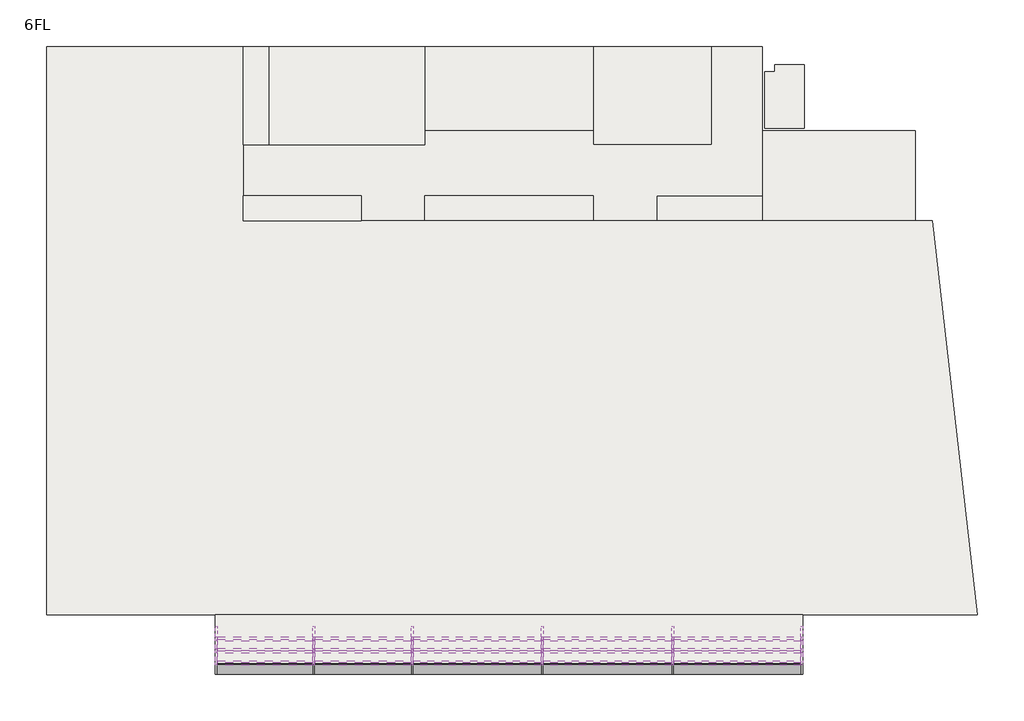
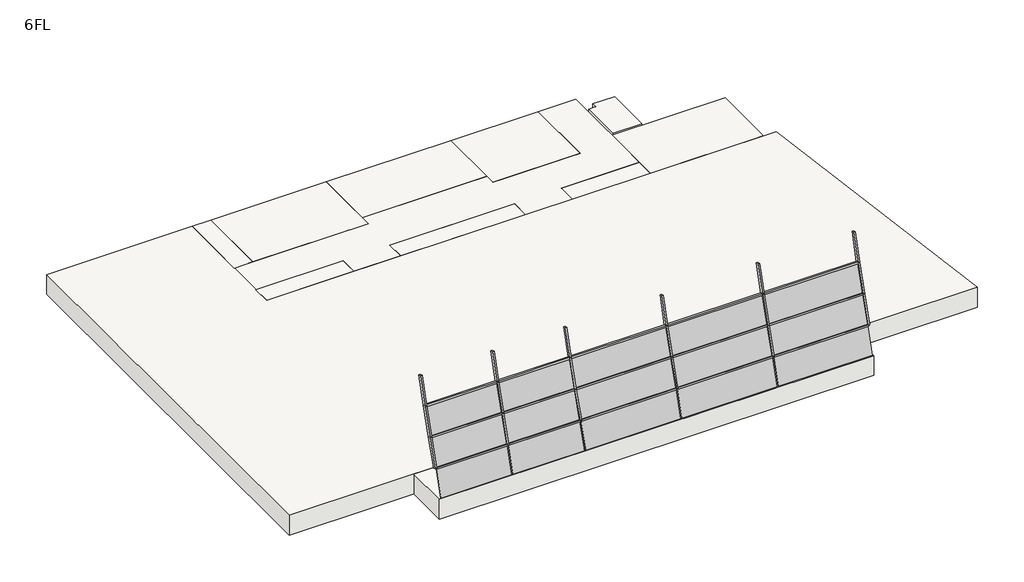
# One storey: 33 members, 15 plates, 12 slabs.
"""IFC4 building model written with IfcOpenShell, lengths in millimetres."""

from ifc_helpers import new_model, si_unit, frame, origin, place, context, project, spatial, polyline, outline, extrude, transform, mapped, element, save
from components import member_70x150_4d24a05e, member_70x150_d36ba8ce, member_70x150_5c89d520, member_70x150_7418113c, member_70x150_315d404a, member_70x150_3cf8c52d, member_70x150_7b6bfe59, member_70x150_6df770a6, member_70x150_4fc0aec4, member_70x150_978bb48a, member_70x150_3538702d, member_70x150_0db77144, member_70x150_8d1aeb24, plate_5c5a61a4, plate_8eeb7153, plate_ab7e929b, plate_5fce4ca5, plate_af152b64, plate_ac0f2cd7, plate_95306383, plate_b8464858, plate_ff207d9e, plate_d95853d9, plate_ad73517c, plate_ecb06764

model = new_model("IFC4")

# Units and contexts
model_context = context("Model", 3, world=origin())
ifc_project = project(units=[si_unit("LENGTHUNIT", "METRE", prefix="MILLI")], contexts=[model_context])

# Site, building, storey
site = spatial("IfcSite", under=ifc_project)
building = spatial("IfcBuilding", under=site)
storey = spatial("IfcBuildingStorey", under=building, Name="6FL", Elevation=20600.0)

# Members
placement = place(None, origin())
member_70x150_shape = member_70x150_4d24a05e(model_context)
element("IfcMember", 1, ObjectType="長方形のマリオン : 70x150", at=placement, inside=storey, context=model_context, shape_type="MappedRepresentation", body=[
    mapped(member_70x150_shape, transform((-2015.9784025, -4839.1729221, 23265.1969185), x_axis=(0.0, 0.3103836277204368, 0.9506113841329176), y_axis=(0.0, -0.9506113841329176, 0.3103836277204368), z_axis=(1.0, 0.0, 0.0))),
])
element("IfcMember", 2, ObjectType="長方形のマリオン : 70x150", at=placement, inside=storey, context=model_context, shape_type="MappedRepresentation", body=[
    mapped(member_70x150_shape, transform((-2015.9784025, -5273.5231859, 21932.2020574), x_axis=(0.0, 0.30475282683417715, 0.9524314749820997), y_axis=(0.0, -0.9524314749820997, 0.30475282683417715), z_axis=(1.0, 0.0, 0.0))),
])
element("IfcMember", 3, ObjectType="長方形のマリオン : 70x150", at=placement, inside=storey, context=model_context, shape_type="MappedRepresentation", body=[
    mapped(member_70x150_shape, transform((-2015.9784025, -4416.3385695, 24600.0), x_axis=(0.0, 0.2889886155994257, 0.9573325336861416), y_axis=(0.0, -0.9573325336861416, 0.2889886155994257), z_axis=(1.0, 0.0, 0.0))),
])
member_70x150_2_shape = member_70x150_d36ba8ce(model_context)
element("IfcMember", 4, ObjectType="長方形のマリオン : 70x150", at=placement, inside=storey, context=model_context, shape_type="MappedRepresentation", body=[
    mapped(member_70x150_2_shape, transform((-19380.9784025, -4839.1729221, 23265.1969185), x_axis=(0.0, 0.31038362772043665, 0.9506113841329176), y_axis=(0.0, -0.9506113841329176, 0.31038362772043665), z_axis=(1.0, 0.0, 0.0))),
])
element("IfcMember", 5, ObjectType="長方形のマリオン : 70x150", at=placement, inside=storey, context=model_context, shape_type="MappedRepresentation", body=[
    mapped(member_70x150_2_shape, transform((-19380.9784025, -5273.5231859, 21932.2020574), x_axis=(0.0, 0.30475282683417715, 0.9524314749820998), y_axis=(0.0, -0.9524314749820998, 0.30475282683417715), z_axis=(1.0, 0.0, 0.0))),
])
element("IfcMember", 6, ObjectType="長方形のマリオン : 70x150", at=placement, inside=storey, context=model_context, shape_type="MappedRepresentation", body=[
    mapped(member_70x150_2_shape, transform((-19380.9784025, -4416.3385695, 24600.0), x_axis=(0.0, 0.28898861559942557, 0.9573325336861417), y_axis=(0.0, -0.9573325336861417, 0.28898861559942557), z_axis=(1.0, 0.0, 0.0))),
])
member_70x150_3_shape = member_70x150_5c89d520(model_context)
element("IfcMember", 7, ObjectType="長方形のマリオン : 70x150", at=placement, inside=storey, context=model_context, shape_type="MappedRepresentation", body=[
    mapped(member_70x150_3_shape, transform((-11247.6450692, -4839.1729221, 23265.1969185), x_axis=(0.0, 0.31038362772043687, 0.9506113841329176), y_axis=(0.0, -0.9506113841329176, 0.31038362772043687), z_axis=(1.0, 0.0, 0.0))),
])
element("IfcMember", 8, ObjectType="長方形のマリオン : 70x150", at=placement, inside=storey, context=model_context, shape_type="MappedRepresentation", body=[
    mapped(member_70x150_3_shape, transform((-6614.3117358, -4839.1729221, 23265.1969185), x_axis=(0.0, 0.3103836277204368, 0.9506113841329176), y_axis=(0.0, -0.9506113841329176, 0.3103836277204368), z_axis=(1.0, 0.0, 0.0))),
])
element("IfcMember", 9, ObjectType="長方形のマリオン : 70x150", at=placement, inside=storey, context=model_context, shape_type="MappedRepresentation", body=[
    mapped(member_70x150_3_shape, transform((-6614.3117358, -5273.5231859, 21932.2020574), x_axis=(0.0, 0.30475282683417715, 0.9524314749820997), y_axis=(0.0, -0.9524314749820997, 0.30475282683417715), z_axis=(1.0, 0.0, 0.0))),
])
element("IfcMember", 10, ObjectType="長方形のマリオン : 70x150", at=placement, inside=storey, context=model_context, shape_type="MappedRepresentation", body=[
    mapped(member_70x150_3_shape, transform((-11247.6450692, -5273.5231859, 21932.2020574), x_axis=(0.0, 0.30475282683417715, 0.9524314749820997), y_axis=(0.0, -0.9524314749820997, 0.30475282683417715), z_axis=(1.0, 0.0, 0.0))),
])
element("IfcMember", 11, ObjectType="長方形のマリオン : 70x150", at=placement, inside=storey, context=model_context, shape_type="MappedRepresentation", body=[
    mapped(member_70x150_3_shape, transform((-11247.6450692, -4416.3385695, 24600.0), x_axis=(0.0, 0.2889886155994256, 0.9573325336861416), y_axis=(0.0, -0.9573325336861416, 0.2889886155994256), z_axis=(1.0, 0.0, 0.0))),
])
element("IfcMember", 12, ObjectType="長方形のマリオン : 70x150", at=placement, inside=storey, context=model_context, shape_type="MappedRepresentation", body=[
    mapped(member_70x150_3_shape, transform((-6614.3117358, -4416.3385695, 24600.0), x_axis=(0.0, 0.28898861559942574, 0.9573325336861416), y_axis=(0.0, -0.9573325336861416, 0.28898861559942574), z_axis=(1.0, 0.0, 0.0))),
])
member_70x150_4_shape = member_70x150_7418113c(model_context)
element("IfcMember", 13, ObjectType="長方形のマリオン : 70x150", at=placement, inside=storey, context=model_context, shape_type="MappedRepresentation", body=[
    mapped(member_70x150_4_shape, transform((-15880.9784025, -4839.1729221, 23265.1969185), x_axis=(0.0, 0.31038362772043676, 0.9506113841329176), y_axis=(0.0, -0.9506113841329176, 0.31038362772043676), z_axis=(1.0, 0.0, 0.0))),
])
element("IfcMember", 14, ObjectType="長方形のマリオン : 70x150", at=placement, inside=storey, context=model_context, shape_type="MappedRepresentation", body=[
    mapped(member_70x150_4_shape, transform((-15880.9784025, -5273.5231859, 21932.2020574), x_axis=(0.0, 0.30475282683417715, 0.9524314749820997), y_axis=(0.0, -0.9524314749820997, 0.30475282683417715), z_axis=(1.0, 0.0, 0.0))),
])
element("IfcMember", 15, ObjectType="長方形のマリオン : 70x150", at=placement, inside=storey, context=model_context, shape_type="MappedRepresentation", body=[
    mapped(member_70x150_4_shape, transform((-15880.9784025, -4416.3385695, 24600.0), x_axis=(0.0, 0.28898861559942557, 0.9573325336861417), y_axis=(0.0, -0.9573325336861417, 0.28898861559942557), z_axis=(1.0, 0.0, 0.0))),
])
member_70x150_5_shape = member_70x150_315d404a(model_context)
element("IfcMember", 16, ObjectType="長方形のマリオン : 70x150", at=placement, inside=storey, context=model_context, shape_type="MappedRepresentation", body=[
    mapped(member_70x150_5_shape, transform((-15845.9784025, -5273.5231859, 21932.2020574), x_axis=(1.0, 0.0, 0.0), y_axis=(0.0, -0.9507975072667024, 0.30981300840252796), z_axis=(0.0, -0.30981300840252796, -0.9507975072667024))),
])
element("IfcMember", 17, ObjectType="長方形のマリオン : 70x150", at=placement, inside=storey, context=model_context, shape_type="MappedRepresentation", body=[
    mapped(member_70x150_5_shape, transform((-6579.3117358, -5273.5231859, 21932.2020574), x_axis=(1.0, 0.0, 0.0), y_axis=(0.0, -0.9507975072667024, 0.30981300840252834), z_axis=(0.0, -0.30981300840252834, -0.9507975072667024))),
])
element("IfcMember", 18, ObjectType="長方形のマリオン : 70x150", at=placement, inside=storey, context=model_context, shape_type="MappedRepresentation", body=[
    mapped(member_70x150_5_shape, transform((-11212.6450692, -5273.5231859, 21932.2020574), x_axis=(1.0, 0.0, 0.0), y_axis=(0.0, -0.9507975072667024, 0.30981300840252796), z_axis=(0.0, -0.30981300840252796, -0.9507975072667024))),
])
element("IfcMember", 19, ObjectType="長方形のマリオン : 70x150", at=placement, inside=storey, context=model_context, shape_type="MappedRepresentation", body=[
    mapped(member_70x150_5_shape, transform((-19345.9784025, -5273.5231859, 21932.2020574), x_axis=(1.0, 0.0, 0.0), y_axis=(0.0, -0.9507975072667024, 0.30981300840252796), z_axis=(0.0, -0.30981300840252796, -0.9507975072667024))),
])
member_70x150_6_shape = member_70x150_3cf8c52d(model_context)
element("IfcMember", 20, ObjectType="長方形のマリオン : 70x150", at=placement, inside=storey, context=model_context, shape_type="MappedRepresentation", body=[
    mapped(member_70x150_6_shape, transform((-15845.9784025, -4839.1729221, 23265.1969185), x_axis=(1.0, 0.0, 0.0), y_axis=(0.0, -0.9533120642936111, 0.3019869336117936), z_axis=(0.0, -0.3019869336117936, -0.9533120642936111))),
])
element("IfcMember", 21, ObjectType="長方形のマリオン : 70x150", at=placement, inside=storey, context=model_context, shape_type="MappedRepresentation", body=[
    mapped(member_70x150_6_shape, transform((-6579.3117358, -4839.1729221, 23265.1969185), x_axis=(1.0, 0.0, 0.0), y_axis=(0.0, -0.9533120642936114, 0.3019869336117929), z_axis=(0.0, -0.30198693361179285, -0.9533120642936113))),
])
element("IfcMember", 22, ObjectType="長方形のマリオン : 70x150", at=placement, inside=storey, context=model_context, shape_type="MappedRepresentation", body=[
    mapped(member_70x150_6_shape, transform((-11212.6450692, -4839.1729221, 23265.1969185), x_axis=(1.0, 0.0, 0.0), y_axis=(0.0, -0.9533120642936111, 0.3019869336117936), z_axis=(0.0, -0.3019869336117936, -0.9533120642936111))),
])
element("IfcMember", 23, ObjectType="長方形のマリオン : 70x150", at=placement, inside=storey, context=model_context, shape_type="MappedRepresentation", body=[
    mapped(member_70x150_6_shape, transform((-19345.9784025, -4839.1729221, 23265.1969185), x_axis=(1.0, 0.0, 0.0), y_axis=(0.0, -0.9533120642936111, 0.3019869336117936), z_axis=(0.0, -0.3019869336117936, -0.9533120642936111))),
])
member_70x150_7_shape = member_70x150_7b6bfe59(model_context)
element("IfcMember", 24, ObjectType="長方形のマリオン : 70x150", at=placement, inside=storey, context=model_context, shape_type="MappedRepresentation", body=[
    mapped(member_70x150_7_shape, transform((-15845.9784025, -4416.3385695, 24600.0), x_axis=(1.0, 0.0, 0.0), y_axis=(0.0, -0.9637605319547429, 0.2667688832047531), z_axis=(0.0, -0.2667688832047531, -0.9637605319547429))),
])
element("IfcMember", 25, ObjectType="長方形のマリオン : 70x150", at=placement, inside=storey, context=model_context, shape_type="MappedRepresentation", body=[
    mapped(member_70x150_7_shape, transform((-6579.3117358, -4416.3385695, 24600.0), x_axis=(1.0, 0.0, 0.0), y_axis=(0.0, -0.9637605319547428, 0.26676888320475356), z_axis=(0.0, -0.2667688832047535, -0.9637605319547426))),
])
element("IfcMember", 26, ObjectType="長方形のマリオン : 70x150", at=placement, inside=storey, context=model_context, shape_type="MappedRepresentation", body=[
    mapped(member_70x150_7_shape, transform((-11212.6450692, -4416.3385695, 24600.0), x_axis=(1.0, 0.0, 0.0), y_axis=(0.0, -0.9637605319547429, 0.2667688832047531), z_axis=(0.0, -0.2667688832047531, -0.9637605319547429))),
])
element("IfcMember", 27, ObjectType="長方形のマリオン : 70x150", at=placement, inside=storey, context=model_context, shape_type="MappedRepresentation", body=[
    mapped(member_70x150_7_shape, transform((-19345.9784025, -4416.3385695, 24600.0), x_axis=(1.0, 0.0, 0.0), y_axis=(0.0, -0.9637605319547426, 0.266768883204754), z_axis=(0.0, -0.26676888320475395, -0.9637605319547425))),
])
member_70x150_8_shape = member_70x150_6df770a6(model_context)
element("IfcMember", 28, ObjectType="長方形のマリオン : 70x150", at=placement, inside=storey, context=model_context, shape_type="MappedRepresentation", body=[
    mapped(member_70x150_8_shape, transform((-1945.9784025, -5273.5231859, 21932.2020574), x_axis=(1.0, 0.0, 0.0), y_axis=(0.0, -0.9507975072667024, 0.30981300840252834), z_axis=(0.0, -0.30981300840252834, -0.9507975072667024))),
])
member_70x150_9_shape = member_70x150_4fc0aec4(model_context)
element("IfcMember", 29, ObjectType="長方形のマリオン : 70x150", at=placement, inside=storey, context=model_context, shape_type="MappedRepresentation", body=[
    mapped(member_70x150_9_shape, transform((-1945.9784025, -4839.1729221, 23265.1969185), x_axis=(1.0, 0.0, 0.0), y_axis=(0.0, -0.9533120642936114, 0.3019869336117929), z_axis=(0.0, -0.30198693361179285, -0.9533120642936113))),
])
member_70x150_10_shape = member_70x150_978bb48a(model_context)
element("IfcMember", 30, ObjectType="長方形のマリオン : 70x150", at=placement, inside=storey, context=model_context, shape_type="MappedRepresentation", body=[
    mapped(member_70x150_10_shape, transform((-22845.9784025, -4416.3385695, 24600.0), x_axis=(-1.0, 0.0, 0.0), y_axis=(0.0, -0.9533120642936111, 0.3019869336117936), z_axis=(0.0, 0.3019869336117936, 0.9533120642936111))),
])
member_70x150_11_shape = member_70x150_3538702d(model_context)
element("IfcMember", 31, ObjectType="長方形のマリオン : 70x150", at=placement, inside=storey, context=model_context, shape_type="MappedRepresentation", body=[
    mapped(member_70x150_11_shape, transform((-1945.9784025, -4416.3385695, 24600.0), x_axis=(1.0, 0.0, 0.0), y_axis=(0.0, -0.9637605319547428, 0.26676888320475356), z_axis=(0.0, -0.2667688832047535, -0.9637605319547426))),
])
member_70x150_12_shape = member_70x150_0db77144(model_context)
element("IfcMember", 32, ObjectType="長方形のマリオン : 70x150", at=placement, inside=storey, context=model_context, shape_type="MappedRepresentation", body=[
    mapped(member_70x150_12_shape, transform((-22845.9784025, -4839.1729221, 23265.1969185), x_axis=(-1.0, 0.0, 0.0), y_axis=(0.0, -0.9507975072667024, 0.30981300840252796), z_axis=(0.0, 0.30981300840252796, 0.9507975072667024))),
])
member_70x150_13_shape = member_70x150_8d1aeb24(model_context)
element("IfcMember", 33, ObjectType="長方形のマリオン : 70x150", at=placement, inside=storey, context=model_context, shape_type="MappedRepresentation", body=[
    mapped(member_70x150_13_shape, transform((-22845.9784025, -4048.229819, 25929.8728132), x_axis=(-1.0, 0.0, 0.0), y_axis=(0.0, -0.9637605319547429, 0.2667688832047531), z_axis=(0.0, 0.2667688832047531, 0.9637605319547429))),
])

# Plates
plate_shape = plate_5c5a61a4(model_context)
element("IfcPlate", 34, ObjectType="システム パネル : 標準", at=placement, inside=storey, context=model_context, shape_type="MappedRepresentation", body=[
    mapped(plate_shape, transform((-21078.4784025, -5667.920516, 20633.4897779), x_axis=(1.0, 0.0, 0.0), y_axis=(0.0, 0.9568507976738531, -0.2905796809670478), z_axis=(0.0, 0.2905796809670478, 0.9568507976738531))),
])
plate_2_shape = plate_8eeb7153(model_context)
element("IfcPlate", 35, ObjectType="システム パネル : 標準", at=placement, inside=storey, context=model_context, shape_type="MappedRepresentation", body=[
    mapped(plate_2_shape, transform((-21078.4784025, -4828.6033794, 23298.5628408), x_axis=(1.0, 0.0, 0.0), y_axis=(0.0, 0.9533120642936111, -0.30198693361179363), z_axis=(0.0, 0.30198693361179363, 0.9533120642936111))),
])
plate_3_shape = plate_ab7e929b(model_context)
element("IfcPlate", 36, ObjectType="システム パネル : 標準", at=placement, inside=storey, context=model_context, shape_type="MappedRepresentation", body=[
    mapped(plate_3_shape, transform((-21078.4784025, -5262.6797306, 21965.4799701), x_axis=(1.0, 0.0, 0.0), y_axis=(0.0, 0.9507975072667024, -0.309813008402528), z_axis=(0.0, 0.309813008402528, 0.9507975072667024))),
])
plate_4_shape = plate_5fce4ca5(model_context)
element("IfcPlate", 37, ObjectType="システム パネル : 標準", at=placement, inside=storey, context=model_context, shape_type="MappedRepresentation", body=[
    mapped(plate_4_shape, transform((-13529.3117358, -5667.920516, 20633.4897779), x_axis=(1.0, 0.0, 0.0), y_axis=(0.0, 0.956850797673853, -0.2905796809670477), z_axis=(0.0, 0.2905796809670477, 0.956850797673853))),
])
element("IfcPlate", 38, ObjectType="システム パネル : 標準", at=placement, inside=storey, context=model_context, shape_type="MappedRepresentation", body=[
    mapped(plate_4_shape, transform((-8895.9784025, -5667.920516, 20633.4897779), x_axis=(1.0, 0.0, 0.0), y_axis=(0.0, 0.9568507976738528, -0.2905796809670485), z_axis=(0.0, 0.2905796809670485, 0.9568507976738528))),
])
plate_5_shape = plate_af152b64(model_context)
element("IfcPlate", 39, ObjectType="システム パネル : 標準", at=placement, inside=storey, context=model_context, shape_type="MappedRepresentation", body=[
    mapped(plate_5_shape, transform((-13529.3117358, -5262.6797306, 21965.4799701), x_axis=(1.0, 0.0, 0.0), y_axis=(0.0, 0.9507975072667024, -0.30981300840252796), z_axis=(0.0, 0.30981300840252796, 0.9507975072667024))),
])
element("IfcPlate", 40, ObjectType="システム パネル : 標準", at=placement, inside=storey, context=model_context, shape_type="MappedRepresentation", body=[
    mapped(plate_5_shape, transform((-8895.9784025, -5262.6797306, 21965.4799701), x_axis=(1.0, 0.0, 0.0), y_axis=(0.0, 0.9507975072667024, -0.30981300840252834), z_axis=(0.0, 0.30981300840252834, 0.9507975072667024))),
])
plate_6_shape = plate_ac0f2cd7(model_context)
element("IfcPlate", 41, ObjectType="システム パネル : 標準", at=placement, inside=storey, context=model_context, shape_type="MappedRepresentation", body=[
    mapped(plate_6_shape, transform((-13529.3117358, -4828.6033794, 23298.5628408), x_axis=(1.0, 0.0, 0.0), y_axis=(0.0, 0.9533120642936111, -0.3019869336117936), z_axis=(0.0, 0.3019869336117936, 0.9533120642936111))),
])
element("IfcPlate", 42, ObjectType="システム パネル : 標準", at=placement, inside=storey, context=model_context, shape_type="MappedRepresentation", body=[
    mapped(plate_6_shape, transform((-8895.9784025, -4828.6033794, 23298.5628408), x_axis=(1.0, 0.0, 0.0), y_axis=(0.0, 0.9533120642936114, -0.3019869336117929), z_axis=(0.0, 0.3019869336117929, 0.9533120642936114))),
])
plate_7_shape = plate_95306383(model_context)
element("IfcPlate", 43, ObjectType="システム パネル : 標準", at=placement, inside=storey, context=model_context, shape_type="MappedRepresentation", body=[
    mapped(plate_7_shape, transform((-17595.9784025, -5667.920516, 20633.4897779), x_axis=(1.0, 0.0, 0.0), y_axis=(0.0, 0.956850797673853, -0.2905796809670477), z_axis=(0.0, 0.2905796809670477, 0.956850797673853))),
])
plate_8_shape = plate_b8464858(model_context)
element("IfcPlate", 44, ObjectType="システム パネル : 標準", at=placement, inside=storey, context=model_context, shape_type="MappedRepresentation", body=[
    mapped(plate_8_shape, transform((-17595.9784025, -5262.6797306, 21965.4799701), x_axis=(1.0, 0.0, 0.0), y_axis=(0.0, 0.9507975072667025, -0.30981300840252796), z_axis=(0.0, 0.30981300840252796, 0.9507975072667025))),
])
plate_9_shape = plate_ff207d9e(model_context)
element("IfcPlate", 45, ObjectType="システム パネル : 標準", at=placement, inside=storey, context=model_context, shape_type="MappedRepresentation", body=[
    mapped(plate_9_shape, transform((-17595.9784025, -4828.6033794, 23298.5628408), x_axis=(1.0, 0.0, 0.0), y_axis=(0.0, 0.9533120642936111, -0.30198693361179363), z_axis=(0.0, 0.30198693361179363, 0.9533120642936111))),
])
plate_10_shape = plate_d95853d9(model_context)
element("IfcPlate", 46, ObjectType="システム パネル : 標準", at=placement, inside=storey, context=model_context, shape_type="MappedRepresentation", body=[
    mapped(plate_10_shape, transform((-4280.1450692, -5667.920516, 20633.4897779), x_axis=(1.0, 0.0, 0.0), y_axis=(0.0, 0.9568507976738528, -0.2905796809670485), z_axis=(0.0, 0.2905796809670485, 0.9568507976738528))),
])
plate_11_shape = plate_ad73517c(model_context)
element("IfcPlate", 47, ObjectType="システム パネル : 標準", at=placement, inside=storey, context=model_context, shape_type="MappedRepresentation", body=[
    mapped(plate_11_shape, transform((-4280.1450692, -5262.6797306, 21965.4799701), x_axis=(1.0, 0.0, 0.0), y_axis=(0.0, 0.9507975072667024, -0.30981300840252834), z_axis=(0.0, 0.30981300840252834, 0.9507975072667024))),
])
plate_12_shape = plate_ecb06764(model_context)
element("IfcPlate", 48, ObjectType="システム パネル : 標準", at=placement, inside=storey, context=model_context, shape_type="MappedRepresentation", body=[
    mapped(plate_12_shape, transform((-4280.1450692, -4828.6033794, 23298.5628408), x_axis=(1.0, 0.0, 0.0), y_axis=(0.0, 0.9533120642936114, -0.30198693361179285), z_axis=(0.0, 0.30198693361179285, 0.9533120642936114))),
])

# Slabs
element("IfcSlab", 49, ObjectType="企画1000", at=placement, inside=storey, context=model_context, shape_type="SweptSolid", body=[
    extrude(outline(polyline([(-17645.9784025, 11349.6868987), (-17645.9784025, 10449.6868987), (-21845.9784025, 10449.6868987), (-21845.9784025, 11349.6868987), (-17645.9784025, 11349.6868987)])), frame((0.0, 0.0, 19600.0), z_axis=(0.0, 0.0, 1.0), x_axis=(1.0, 0.0, 0.0)), (0.0, 0.0, 1.0), 1000.0),
])
element("IfcSlab", 50, ObjectType="企画1000", at=placement, inside=storey, context=model_context, shape_type="SweptSolid", body=[
    extrude(outline(polyline([(-20945.9784025, 16649.6868987), (-20945.9784025, 13149.6868987), (-21845.9784025, 13149.6868987), (-21845.9784025, 16649.6868987), (-20945.9784025, 16649.6868987)])), frame((0.0, 0.0, 19600.0), z_axis=(0.0, 0.0, 1.0), x_axis=(1.0, 0.0, 0.0)), (0.0, 0.0, 1.0), 1000.0),
])
element("IfcSlab", 51, ObjectType="企画1000", at=placement, inside=storey, context=model_context, shape_type="SweptSolid", body=[
    extrude(outline(polyline([(-9395.9784025, 16649.6868987), (-9395.9784025, 13649.6868987), (-15395.9784025, 13649.6868987), (-15395.9784025, 16649.6868987), (-9395.9784025, 16649.6868987)])), frame((0.0, 0.0, 19600.0), z_axis=(0.0, 0.0, 1.0), x_axis=(1.0, 0.0, 0.0)), (0.0, 0.0, 1.0), 1000.0),
])
element("IfcSlab", 52, ObjectType="企画1000", at=placement, inside=storey, context=model_context, shape_type="SweptSolid", body=[
    extrude(outline(polyline([(-28845.9784025, -3550.3131013), (-28845.9784025, 16649.6868987), (-21845.9784025, 16649.6868987), (-21845.9784025, 10449.6868987), (2661.9595949, 10449.6868987), (4261.9595949, -3550.3131013), (-28845.9784025, -3550.3131013)])), frame((0.0, 0.0, 19600.0), z_axis=(0.0, 0.0, 1.0), x_axis=(1.0, 0.0, 0.0)), (0.0, 0.0, 1.0), 1000.0),
])
element("IfcSlab", 53, ObjectType="企画1000", at=placement, inside=storey, context=model_context, shape_type="SweptSolid", body=[
    extrude(outline(polyline([(-9395.9784025, 11349.6868987), (-9395.9784025, 10449.6868987), (-15395.9784025, 10449.6868987), (-15395.9784025, 11349.6868987), (-9395.9784025, 11349.6868987)])), frame((0.0, 0.0, 19600.0), z_axis=(0.0, 0.0, 1.0), x_axis=(1.0, 0.0, 0.0)), (0.0, 0.0, 1.0), 1000.0),
])
element("IfcSlab", 54, ObjectType="企画1000", at=placement, inside=storey, context=model_context, shape_type="SweptSolid", body=[
    extrude(outline(polyline([(2054.0215975, 13649.6868987), (2054.0215975, 10449.6868987), (-3395.9784025, 10449.6868987), (-3395.9784025, 13649.6868987), (2054.0215975, 13649.6868987)])), frame((0.0, 0.0, 19600.0), z_axis=(0.0, 0.0, 1.0), x_axis=(1.0, 0.0, 0.0)), (0.0, 0.0, 1.0), 1000.0),
])
element("IfcSlab", 55, ObjectType="企画1000", at=placement, inside=storey, context=model_context, shape_type="SweptSolid", body=[
    extrude(outline(polyline([(-15395.9784025, 13149.6868987), (-15395.9784025, 13649.6868987), (-9395.9784025, 13649.6868987), (-9395.9784025, 13149.6868987), (-5195.9784025, 13149.6868987), (-5195.9784025, 16649.6868987), (-3395.9784025, 16649.6868987), (-3395.9784025, 11349.6868987), (-7145.9784025, 11349.6868987), (-7145.9784025, 10449.6868987), (-9395.9784025, 10449.6868987), (-9395.9784025, 11349.6868987), (-15395.9784025, 11349.6868987), (-15395.9784025, 10449.6868987), (-17645.9784025, 10449.6868987), (-17645.9784025, 11349.6868987), (-21845.9784025, 11349.6868987), (-21845.9784025, 13149.6868987), (-15395.9784025, 13149.6868987)])), frame((0.0, 0.0, 19600.0), z_axis=(0.0, 0.0, 1.0), x_axis=(1.0, 0.0, 0.0)), (0.0, 0.0, 1.0), 1000.0),
])
element("IfcSlab", 56, ObjectType="企画1000", at=placement, inside=storey, context=model_context, shape_type="SweptSolid", body=[
    extrude(outline(polyline([(-15395.9784025, 16649.6868987), (-15395.9784025, 13149.6868987), (-20945.9784025, 13149.6868987), (-20945.9784025, 16649.6868987), (-15395.9784025, 16649.6868987)])), frame((0.0, 0.0, 19600.0), z_axis=(0.0, 0.0, 1.0), x_axis=(1.0, 0.0, 0.0)), (0.0, 0.0, 1.0), 1000.0),
])
element("IfcSlab", 57, ObjectType="企画1000", at=placement, inside=storey, context=model_context, shape_type="SweptSolid", body=[
    extrude(outline(polyline([(-5195.9784025, 16649.6868987), (-5195.9784025, 13149.6868987), (-9395.9784025, 13149.6868987), (-9395.9784025, 16649.6868987), (-5195.9784025, 16649.6868987)])), frame((0.0, 0.0, 19600.0), z_axis=(0.0, 0.0, 1.0), x_axis=(1.0, 0.0, 0.0)), (0.0, 0.0, 1.0), 1000.0),
])
element("IfcSlab", 58, ObjectType="企画1000", at=placement, inside=storey, context=model_context, shape_type="SweptSolid", body=[
    extrude(outline(polyline([(-3395.9784025, 11349.6868987), (-3395.9784025, 10449.6868987), (-7145.9784025, 10449.6868987), (-7145.9784025, 11349.6868987), (-3395.9784025, 11349.6868987)])), frame((0.0, 0.0, 19600.0), z_axis=(0.0, 0.0, 1.0), x_axis=(1.0, 0.0, 0.0)), (0.0, 0.0, 1.0), 1000.0),
])
element("IfcSlab", 59, ObjectType="企画1000", at=placement, inside=storey, context=model_context, shape_type="SweptSolid", body=[
    extrude(outline(polyline([(-1945.9784025, -3550.3131013), (-1945.9784025, -5678.0908048), (-22845.9784025, -5678.0908048), (-22845.9784025, -3550.3131013), (-1945.9784025, -3550.3131013)])), frame((0.0, 0.0, 19600.0), z_axis=(0.0, 0.0, 1.0), x_axis=(1.0, 0.0, 0.0)), (0.0, 0.0, 1.0), 1000.0),
])
element("IfcSlab", 60, ObjectType="RC250", at=placement, inside=storey, context=model_context, shape_type="SweptSolid", body=[
    extrude(outline(polyline([(-2945.9784025, 15999.6868987), (-1895.9784025, 15999.6868987), (-1895.9784025, 13749.6868987), (-3295.9784025, 13749.6868987), (-3295.9784025, 15749.6868987), (-2945.9784025, 15749.6868987), (-2945.9784025, 15999.6868987)])), frame((0.0, 0.0, 20350.0), z_axis=(0.0, 0.0, 1.0), x_axis=(1.0, 0.0, 0.0)), (0.0, 0.0, 1.0), 250.0),
])

save(model, "model.ifc")
